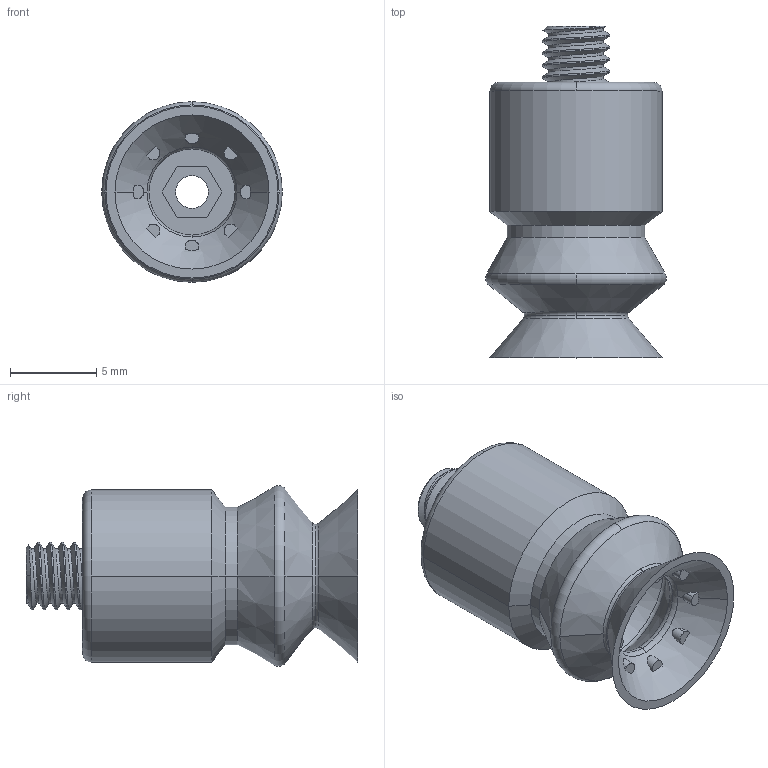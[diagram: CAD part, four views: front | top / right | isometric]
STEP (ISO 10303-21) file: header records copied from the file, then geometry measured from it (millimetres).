
FILE_DESCRIPTION (( 'STEP AP214' ), '1' );
FILE_NAME ('15B.010.005-M4.STEP', '2026-03-16T17:44:02', ( '' ), ( '' ), 'SwSTEP 2.0', 'SolidWorks 2025', '' );
FILE_SCHEMA (( 'AUTOMOTIVE_DESIGN' ));
Length unit declared in the file: inch
Products named in the file (3): 410.013; 15B.010.005; 15B.010.005-M4
Assembly tree (2 placements, depth 2):
  15B.010.005-M4
    15B.010.005
    410.013
Bounding box: 10.5 x 19.28 x 10.5 mm (x, y, z)
Volume: 796 mm3; surface area: 1191.7 mm2
Topology: 2 solids, 2 shells, 116 faces, 296 edges, 194 vertices
Faces by surface type: cylinder 40, plane 38, cone 21, torus 14, bspline 3
Entity records: 4803 total; most frequent: CARTESIAN_POINT 1961, ORIENTED_EDGE 592, DIRECTION 581, EDGE_CURVE 296, AXIS2_PLACEMENT_3D 239, VERTEX_POINT 194, EDGE_LOOP 130, CIRCLE 121
